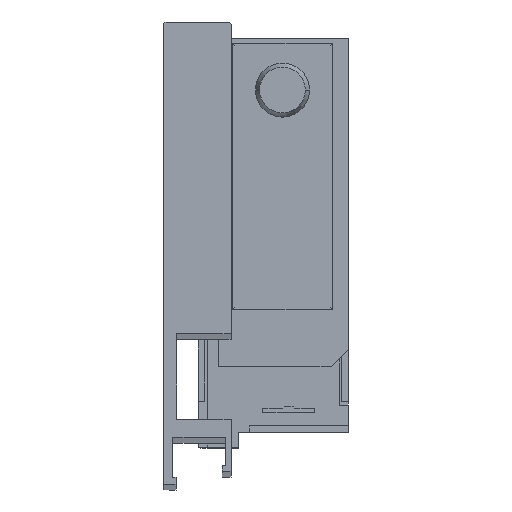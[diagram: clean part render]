
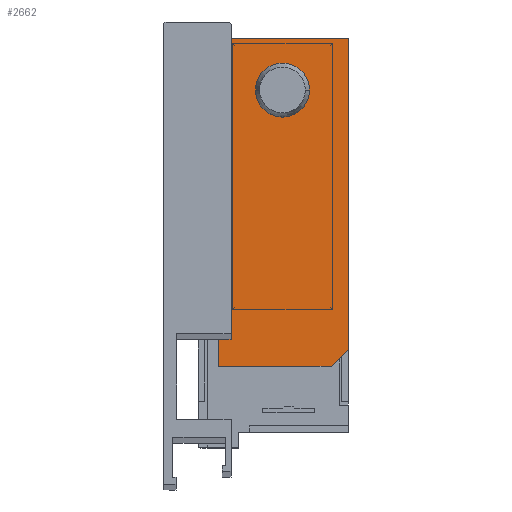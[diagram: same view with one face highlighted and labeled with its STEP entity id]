
A CAD part, top view. The second image highlights one B-rep face of the part: STEP entity #2662.
In plain terms, the highlighted planar face has unit normal (0, 0, 1).
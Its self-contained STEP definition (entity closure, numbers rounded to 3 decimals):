
#48 = CARTESIAN_POINT ( 'NONE',  ( 30.6, 48., -640. ) ) ;
#145 = DIRECTION ( 'NONE',  ( -0.707, -0.707, 0. ) ) ;
#168 = CARTESIAN_POINT ( 'NONE',  ( 38.1, -1.85, -640. ) ) ;
#211 = DIRECTION ( 'NONE',  ( 0., 0., 1. ) ) ;
#247 = LINE ( 'NONE', #1966, #2211 ) ;
#264 = ORIENTED_EDGE ( 'NONE', *, *, #2818, .F. ) ;
#287 = CARTESIAN_POINT ( 'NONE',  ( 34.75, -5.2, -640. ) ) ;
#330 = EDGE_CURVE ( 'NONE', #2345, #711, #1867, .T. ) ;
#350 = CARTESIAN_POINT ( 'NONE',  ( 15.5, 58., -640. ) ) ;
#355 = AXIS2_PLACEMENT_3D ( 'NONE', #2911, #211, #1455 ) ;
#372 = DIRECTION ( 'NONE',  ( 0., 1., 0. ) ) ;
#414 = LINE ( 'NONE', #890, #2121 ) ;
#420 = LINE ( 'NONE', #2665, #1799 ) ;
#503 = ORIENTED_EDGE ( 'NONE', *, *, #1611, .F. ) ;
#516 = CARTESIAN_POINT ( 'NONE',  ( 25.4, 48., -640. ) ) ;
#591 = VERTEX_POINT ( 'NONE', #2574 ) ;
#711 = VERTEX_POINT ( 'NONE', #48 ) ;
#881 = PLANE ( 'NONE',  #355 ) ;
#890 = CARTESIAN_POINT ( 'NONE',  ( 38.1, -1.85, -640. ) ) ;
#926 = VERTEX_POINT ( 'NONE', #2142 ) ;
#941 = DIRECTION ( 'NONE',  ( 1., 0., 0. ) ) ;
#974 = EDGE_CURVE ( 'NONE', #591, #1914, #1471, .T. ) ;
#1051 = CARTESIAN_POINT ( 'NONE',  ( 15.5, 0., -640. ) ) ;
#1115 = VERTEX_POINT ( 'NONE', #350 ) ;
#1185 = DIRECTION ( 'NONE',  ( 0., 1., 0. ) ) ;
#1349 = LINE ( 'NONE', #2558, #1570 ) ;
#1388 = DIRECTION ( 'NONE',  ( -1., 0., 0. ) ) ;
#1455 = DIRECTION ( 'NONE',  ( -1., 0., 0. ) ) ;
#1465 = LINE ( 'NONE', #287, #2556 ) ;
#1468 = EDGE_LOOP ( 'NONE', ( #2263, #2394 ) ) ;
#1471 = LINE ( 'NONE', #3030, #2287 ) ;
#1479 = DIRECTION ( 'NONE',  ( 0., 0., 1. ) ) ;
#1570 = VECTOR ( 'NONE', #3023, 1000. ) ;
#1611 = EDGE_CURVE ( 'NONE', #926, #2282, #1465, .T. ) ;
#1704 = EDGE_LOOP ( 'NONE', ( #264, #503, #2955, #2049, #1765, #2525, #2315 ) ) ;
#1735 = FACE_OUTER_BOUND ( 'NONE', #1704, .T. ) ;
#1765 = ORIENTED_EDGE ( 'NONE', *, *, #1924, .F. ) ;
#1799 = VECTOR ( 'NONE', #941, 1000. ) ;
#1801 = DIRECTION ( 'NONE',  ( -1., 0., 0. ) ) ;
#1859 = EDGE_CURVE ( 'NONE', #1914, #926, #414, .T. ) ;
#1867 = CIRCLE ( 'NONE', #2667, 5.2 ) ;
#1892 = VERTEX_POINT ( 'NONE', #2772 ) ;
#1900 = VECTOR ( 'NONE', #1185, 1000. ) ;
#1914 = VERTEX_POINT ( 'NONE', #168 ) ;
#1924 = EDGE_CURVE ( 'NONE', #1115, #591, #420, .T. ) ;
#1966 = CARTESIAN_POINT ( 'NONE',  ( 13.1, -5.2, -640. ) ) ;
#2049 = ORIENTED_EDGE ( 'NONE', *, *, #974, .F. ) ;
#2072 = EDGE_CURVE ( 'NONE', #1892, #2748, #1349, .T. ) ;
#2121 = VECTOR ( 'NONE', #145, 1000. ) ;
#2142 = CARTESIAN_POINT ( 'NONE',  ( 34.75, -5.2, -640. ) ) ;
#2144 = CARTESIAN_POINT ( 'NONE',  ( 13.1, -5.2, -640. ) ) ;
#2153 = EDGE_CURVE ( 'NONE', #2748, #1115, #2809, .T. ) ;
#2177 = CARTESIAN_POINT ( 'NONE',  ( 25.4, 48., -640. ) ) ;
#2197 = DIRECTION ( 'NONE',  ( 0., 0., 1. ) ) ;
#2211 = VECTOR ( 'NONE', #372, 1000. ) ;
#2263 = ORIENTED_EDGE ( 'NONE', *, *, #2443, .F. ) ;
#2282 = VERTEX_POINT ( 'NONE', #2144 ) ;
#2287 = VECTOR ( 'NONE', #2478, 1000. ) ;
#2315 = ORIENTED_EDGE ( 'NONE', *, *, #2072, .F. ) ;
#2335 = CARTESIAN_POINT ( 'NONE',  ( 20.2, 48., -640. ) ) ;
#2345 = VERTEX_POINT ( 'NONE', #2335 ) ;
#2382 = FACE_BOUND ( 'NONE', #1468, .T. ) ;
#2394 = ORIENTED_EDGE ( 'NONE', *, *, #330, .F. ) ;
#2396 = CARTESIAN_POINT ( 'NONE',  ( 15.5, 59.9, -640. ) ) ;
#2443 = EDGE_CURVE ( 'NONE', #711, #2345, #2471, .T. ) ;
#2471 = CIRCLE ( 'NONE', #2837, 5.2 ) ;
#2478 = DIRECTION ( 'NONE',  ( 0., -1., 0. ) ) ;
#2525 = ORIENTED_EDGE ( 'NONE', *, *, #2153, .F. ) ;
#2556 = VECTOR ( 'NONE', #1388, 1000. ) ;
#2558 = CARTESIAN_POINT ( 'NONE',  ( 3.3, 0., -640. ) ) ;
#2574 = CARTESIAN_POINT ( 'NONE',  ( 38.1, 58., -640. ) ) ;
#2662 = ADVANCED_FACE ( 'NONE', ( #1735, #2382 ), #881, .T. ) ;
#2665 = CARTESIAN_POINT ( 'NONE',  ( 10.45, 58., -640. ) ) ;
#2667 = AXIS2_PLACEMENT_3D ( 'NONE', #2177, #2197, #1801 ) ;
#2748 = VERTEX_POINT ( 'NONE', #1051 ) ;
#2772 = CARTESIAN_POINT ( 'NONE',  ( 13.1, 0., -640. ) ) ;
#2809 = LINE ( 'NONE', #2396, #1900 ) ;
#2818 = EDGE_CURVE ( 'NONE', #2282, #1892, #247, .T. ) ;
#2837 = AXIS2_PLACEMENT_3D ( 'NONE', #516, #1479, #2947 ) ;
#2911 = CARTESIAN_POINT ( 'NONE',  ( 5., 0., -640. ) ) ;
#2947 = DIRECTION ( 'NONE',  ( -1., 0., 0. ) ) ;
#2955 = ORIENTED_EDGE ( 'NONE', *, *, #1859, .F. ) ;
#3023 = DIRECTION ( 'NONE',  ( 1., 0., 0. ) ) ;
#3030 = CARTESIAN_POINT ( 'NONE',  ( 38.1, 58., -640. ) ) ;
